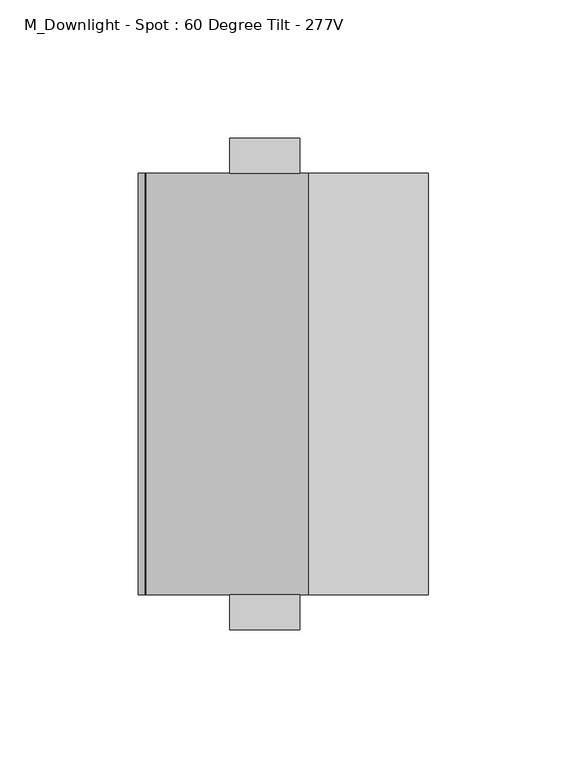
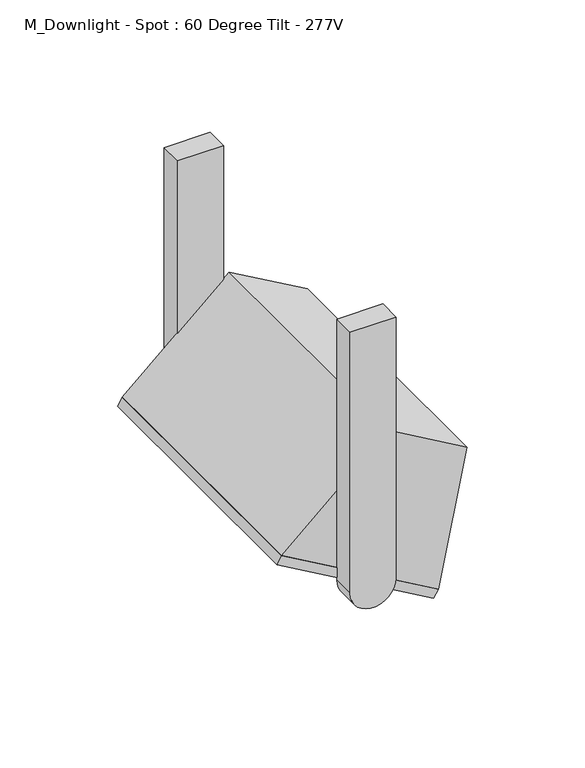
"""IFC4 building model written with IfcOpenShell, lengths in millimetres: light fixture geometry, M_Downlight - Spot : 60 Degree Tilt - 277V."""

from ifc_helpers import new_model, si_unit, point, frame, frame_2d, origin, place, context, project, spatial, polyline, circle_curve, trimmed, segment, composite_curve, outline, extrude, source, transform, mapped, element, save


def m_downlight_spot_60_degree_tilt_277v_15926088(model_context):
    return source(origin(), model_context, "Body", "SweptSolid", [
        extrude(outline(polyline([(0.0, -100.0), (0.0, 0.0), (152.4, 0.0), (152.4, -100.0), (0.0, -100.0)])), frame((-45.7978562, -76.2, 2306.6757862), z_axis=(0.49999999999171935, 0.0, 0.8660254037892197), x_axis=(0.0, 1.0, 0.0)), (0.0, 0.0, 1.0), 5.0),
        extrude(outline(composite_curve([segment(trimmed(circle_curve(frame_2d((2286.0, 0.0)), 12.7), [point((2286.0, -12.7))], [point((2286.0, 12.7))], False, "CARTESIAN"), True, "CONTINUOUS"), segment(polyline([(2286.0, 12.7), (2438.4, 12.7), (2438.4, -12.7), (2286.0, -12.7)]), True, "CONTINUOUS")], self_intersect=False)), frame((0.0, 76.2, 0.0), z_axis=(0.0, 1.0, 0.0), x_axis=(0.0, 0.0, 1.0)), (0.0, 0.0, 1.0), 12.7),
        extrude(outline(composite_curve([segment(trimmed(circle_curve(frame_2d((2286.0, 0.0)), 12.7), [point((2286.0, -12.7))], [point((2286.0, 12.7))], False, "CARTESIAN"), True, "CONTINUOUS"), segment(polyline([(2286.0, 12.7), (2438.4, 12.7), (2438.4, -12.7), (2286.0, -12.7)]), True, "CONTINUOUS")], self_intersect=False)), frame((0.0, -88.9, 0.0), z_axis=(0.0, 1.0, 0.0), x_axis=(0.0, 0.0, 1.0)), (0.0, 0.0, 1.0), 12.7),
        extrude(outline(polyline([(2338.4519053, 59.164291), (2363.4519053, 15.8630208), (2311.0, -43.2876143), (2286.0, 0.0136559), (2261.0, 43.3149261), (2338.4519053, 59.164291)])), frame((0.0, -76.2, 0.0), z_axis=(0.0, 1.0, 0.0), x_axis=(0.0, 0.0, 1.0)), (0.0, 0.0, 1.0), 152.4),
    ])


if __name__ == "__main__":
    model = new_model("IFC4")
    model_context = context("Model", 3, world=origin())
    ifc_project = project(units=[si_unit("LENGTHUNIT", "METRE", prefix="MILLI")], contexts=[model_context])
    site = spatial("IfcSite", under=ifc_project)
    building = spatial("IfcBuilding", under=site)
    placement = place(None, origin())
    m_downlight_spot_60_degree_tilt_277v_shape = m_downlight_spot_60_degree_tilt_277v_15926088(model_context)
    element("IfcLightFixture", 1, ObjectType="M_Downlight - Spot : 60 Degree Tilt - 277V", at=placement, inside=building, context=model_context, shape_type="MappedRepresentation", body=[
        mapped(m_downlight_spot_60_degree_tilt_277v_shape, transform((0.0, 0.0, 0.0), x_axis=(1.0, 0.0, 0.0), y_axis=(0.0, 1.0, 0.0), z_axis=(0.0, 0.0, 1.0))),
    ])
    save(model, "model.ifc")
